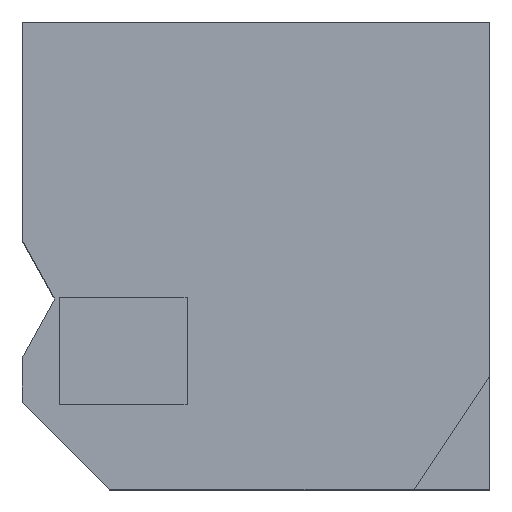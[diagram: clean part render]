
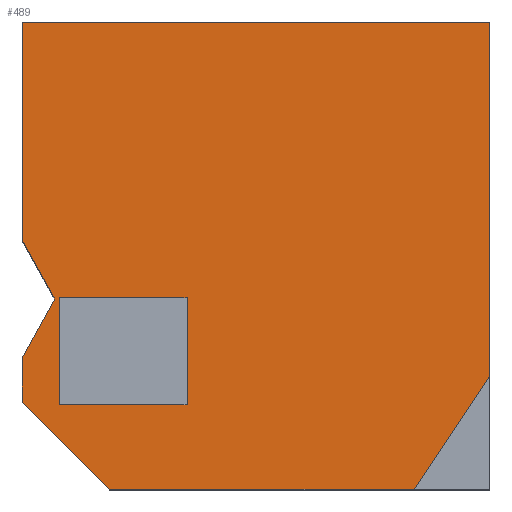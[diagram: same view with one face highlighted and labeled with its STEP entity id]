
A CAD part, top view. The second image highlights one B-rep face of the part: STEP entity #489.
In plain terms, the highlighted planar face has unit normal (0, 0, 1).
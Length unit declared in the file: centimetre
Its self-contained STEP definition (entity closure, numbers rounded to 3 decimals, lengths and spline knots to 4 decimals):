
#3 = DIRECTION ( 'NONE',  ( 0., -1., 0. ) ) ;
#13 = LINE ( 'NONE', #430, #455 ) ;
#38 = VECTOR ( 'NONE', #50, 100. ) ;
#42 = VECTOR ( 'NONE', #425, 100. ) ;
#50 = DIRECTION ( 'NONE',  ( 0., 1., 0. ) ) ;
#60 = CARTESIAN_POINT ( 'NONE',  ( 186.2625, 0., 1000. ) ) ;
#84 = ORIENTED_EDGE ( 'NONE', *, *, #508, .F. ) ;
#88 = LINE ( 'NONE', #326, #227 ) ;
#105 = CARTESIAN_POINT ( 'NONE',  ( 1000., 1000., 1000. ) ) ;
#121 = DIRECTION ( 'NONE',  ( -1., 0., 0. ) ) ;
#122 = ORIENTED_EDGE ( 'NONE', *, *, #276, .T. ) ;
#127 = LINE ( 'NONE', #238, #42 ) ;
#129 = CARTESIAN_POINT ( 'NONE',  ( 838.8883, 0., 1000. ) ) ;
#130 = DIRECTION ( 'NONE',  ( 1., 0., 0. ) ) ;
#138 = DIRECTION ( 'NONE',  ( 1., 0., 0. ) ) ;
#140 = VECTOR ( 'NONE', #712, 100. ) ;
#159 = EDGE_CURVE ( 'NONE', #335, #216, #454, .T. ) ;
#167 = DIRECTION ( 'NONE',  ( -0.481, -0.877, 0. ) ) ;
#172 = LINE ( 'NONE', #460, #233 ) ;
#173 = EDGE_CURVE ( 'NONE', #756, #673, #685, .T. ) ;
#191 = CARTESIAN_POINT ( 'NONE',  ( 0., 1000., 1000. ) ) ;
#198 = PLANE ( 'NONE',  #597 ) ;
#203 = CARTESIAN_POINT ( 'NONE',  ( 352.3254, 180.828, 1000. ) ) ;
#216 = VERTEX_POINT ( 'NONE', #60 ) ;
#227 = VECTOR ( 'NONE', #603, 100. ) ;
#233 = VECTOR ( 'NONE', #450, 100. ) ;
#235 = VERTEX_POINT ( 'NONE', #299 ) ;
#238 = CARTESIAN_POINT ( 'NONE',  ( 79.5168, 180.828, 1000. ) ) ;
#242 = ORIENTED_EDGE ( 'NONE', *, *, #173, .T. ) ;
#249 = ORIENTED_EDGE ( 'NONE', *, *, #159, .T. ) ;
#253 = CARTESIAN_POINT ( 'NONE',  ( 0., 0., 1000. ) ) ;
#256 = ORIENTED_EDGE ( 'NONE', *, *, #576, .T. ) ;
#267 = EDGE_CURVE ( 'NONE', #714, #316, #127, .T. ) ;
#276 = EDGE_CURVE ( 'NONE', #408, #684, #708, .T. ) ;
#294 = CARTESIAN_POINT ( 'NONE',  ( 352.3254, 180.828, 1000. ) ) ;
#299 = CARTESIAN_POINT ( 'NONE',  ( 79.5168, 409.9325, 1000. ) ) ;
#309 = LINE ( 'NONE', #410, #758 ) ;
#316 = VERTEX_POINT ( 'NONE', #294 ) ;
#318 = EDGE_CURVE ( 'NONE', #216, #595, #703, .T. ) ;
#326 = CARTESIAN_POINT ( 'NONE',  ( 1000., 242.076, 1000. ) ) ;
#333 = VECTOR ( 'NONE', #130, 100. ) ;
#335 = VERTEX_POINT ( 'NONE', #639 ) ;
#337 = CARTESIAN_POINT ( 'NONE',  ( 0., 281.4263, 1000. ) ) ;
#342 = EDGE_CURVE ( 'NONE', #574, #235, #309, .T. ) ;
#358 = LINE ( 'NONE', #203, #140 ) ;
#364 = CARTESIAN_POINT ( 'NONE',  ( 0., 0., 1000. ) ) ;
#369 = FACE_BOUND ( 'NONE', #380, .T. ) ;
#380 = EDGE_LOOP ( 'NONE', ( #466, #511, #84, #385 ) ) ;
#385 = ORIENTED_EDGE ( 'NONE', *, *, #267, .F. ) ;
#405 = EDGE_CURVE ( 'NONE', #480, #595, #88, .T. ) ;
#407 = VECTOR ( 'NONE', #420, 100. ) ;
#408 = VERTEX_POINT ( 'NONE', #445 ) ;
#410 = CARTESIAN_POINT ( 'NONE',  ( 79.5168, 409.9325, 1000. ) ) ;
#416 = ORIENTED_EDGE ( 'NONE', *, *, #652, .T. ) ;
#419 = DIRECTION ( 'NONE',  ( 0., -1., 0. ) ) ;
#420 = DIRECTION ( 'NONE',  ( -1., 0., 0. ) ) ;
#424 = CARTESIAN_POINT ( 'NONE',  ( 352.3254, 409.9325, 1000. ) ) ;
#425 = DIRECTION ( 'NONE',  ( 1., 0., 0. ) ) ;
#430 = CARTESIAN_POINT ( 'NONE',  ( 0., 1000., 1000. ) ) ;
#445 = CARTESIAN_POINT ( 'NONE',  ( 1000., 1000., 1000. ) ) ;
#450 = DIRECTION ( 'NONE',  ( 0.481, -0.877, 0. ) ) ;
#454 = LINE ( 'NONE', #687, #467 ) ;
#455 = VECTOR ( 'NONE', #419, 100. ) ;
#460 = CARTESIAN_POINT ( 'NONE',  ( 68.992, 407.0866, 1000. ) ) ;
#466 = ORIENTED_EDGE ( 'NONE', *, *, #524, .F. ) ;
#467 = VECTOR ( 'NONE', #512, 100. ) ;
#480 = VERTEX_POINT ( 'NONE', #493 ) ;
#489 = ADVANCED_FACE ( 'NONE', ( #727, #369 ), #198, .T. ) ;
#493 = CARTESIAN_POINT ( 'NONE',  ( 1000., 242.076, 1000. ) ) ;
#508 = EDGE_CURVE ( 'NONE', #316, #574, #358, .T. ) ;
#511 = ORIENTED_EDGE ( 'NONE', *, *, #342, .F. ) ;
#512 = DIRECTION ( 'NONE',  ( 0.707, -0.707, 0. ) ) ;
#524 = EDGE_CURVE ( 'NONE', #235, #714, #588, .T. ) ;
#527 = CARTESIAN_POINT ( 'NONE',  ( 79.5168, 180.828, 1000. ) ) ;
#531 = DIRECTION ( 'NONE',  ( 0., 0., 1. ) ) ;
#538 = CARTESIAN_POINT ( 'NONE',  ( 0., 1000., 1000. ) ) ;
#549 = ORIENTED_EDGE ( 'NONE', *, *, #567, .T. ) ;
#561 = CARTESIAN_POINT ( 'NONE',  ( 0., 532.7468, 1000. ) ) ;
#567 = EDGE_CURVE ( 'NONE', #684, #613, #599, .T. ) ;
#574 = VERTEX_POINT ( 'NONE', #424 ) ;
#576 = EDGE_CURVE ( 'NONE', #673, #335, #13, .T. ) ;
#588 = LINE ( 'NONE', #527, #750 ) ;
#590 = ORIENTED_EDGE ( 'NONE', *, *, #625, .T. ) ;
#595 = VERTEX_POINT ( 'NONE', #129 ) ;
#597 = AXIS2_PLACEMENT_3D ( 'NONE', #253, #531, #138 ) ;
#598 = CARTESIAN_POINT ( 'NONE',  ( 68.992, 407.0866, 1000. ) ) ;
#599 = LINE ( 'NONE', #538, #733 ) ;
#603 = DIRECTION ( 'NONE',  ( -0.554, -0.832, 0. ) ) ;
#613 = VERTEX_POINT ( 'NONE', #561 ) ;
#625 = EDGE_CURVE ( 'NONE', #480, #408, #691, .T. ) ;
#629 = CARTESIAN_POINT ( 'NONE',  ( 0., 1000., 1000. ) ) ;
#639 = CARTESIAN_POINT ( 'NONE',  ( 0., 186.2625, 1000. ) ) ;
#652 = EDGE_CURVE ( 'NONE', #613, #756, #172, .T. ) ;
#657 = DIRECTION ( 'NONE',  ( 0., -1., 0. ) ) ;
#668 = ORIENTED_EDGE ( 'NONE', *, *, #318, .T. ) ;
#673 = VERTEX_POINT ( 'NONE', #739 ) ;
#678 = EDGE_LOOP ( 'NONE', ( #242, #256, #249, #668, #696, #590, #122, #549, #416 ) ) ;
#684 = VERTEX_POINT ( 'NONE', #629 ) ;
#685 = LINE ( 'NONE', #337, #736 ) ;
#687 = CARTESIAN_POINT ( 'NONE',  ( 93.1313, 93.1313, 1000. ) ) ;
#691 = LINE ( 'NONE', #105, #38 ) ;
#696 = ORIENTED_EDGE ( 'NONE', *, *, #405, .F. ) ;
#703 = LINE ( 'NONE', #364, #333 ) ;
#708 = LINE ( 'NONE', #191, #407 ) ;
#712 = DIRECTION ( 'NONE',  ( 0., 1., 0. ) ) ;
#714 = VERTEX_POINT ( 'NONE', #726 ) ;
#726 = CARTESIAN_POINT ( 'NONE',  ( 79.5168, 180.828, 1000. ) ) ;
#727 = FACE_OUTER_BOUND ( 'NONE', #678, .T. ) ;
#733 = VECTOR ( 'NONE', #3, 100. ) ;
#736 = VECTOR ( 'NONE', #167, 100. ) ;
#739 = CARTESIAN_POINT ( 'NONE',  ( 0., 281.4263, 1000. ) ) ;
#750 = VECTOR ( 'NONE', #657, 100. ) ;
#756 = VERTEX_POINT ( 'NONE', #598 ) ;
#758 = VECTOR ( 'NONE', #121, 100. ) ;
